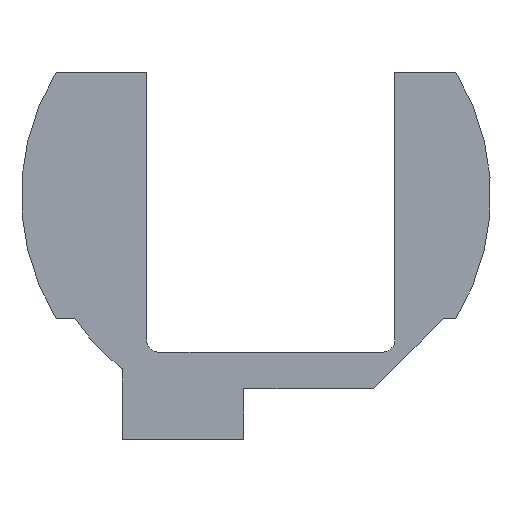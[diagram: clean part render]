
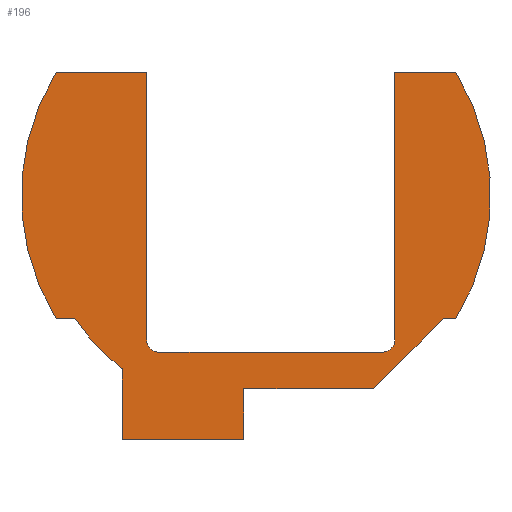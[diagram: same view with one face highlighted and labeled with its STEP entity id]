
A CAD part, front view. The second image highlights one B-rep face of the part: STEP entity #196.
In plain terms, the highlighted planar face has unit normal (0, -1, 0).
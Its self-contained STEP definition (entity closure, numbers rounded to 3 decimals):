
#13 = CARTESIAN_POINT ( 'NONE',  ( 11.962, -12.733, -11.962 ) ) ;
#18 = CARTESIAN_POINT ( 'NONE',  ( -11.383, -12.733, -13.024 ) ) ;
#26 = DIRECTION ( 'NONE',  ( -1., 0., 0. ) ) ;
#36 = CARTESIAN_POINT ( 'NONE',  ( -16.828, -12.733, -8.885 ) ) ;
#38 = VECTOR ( 'NONE', #324, 1000. ) ;
#43 = CARTESIAN_POINT ( 'NONE',  ( 16.061, -12.733, 11.356 ) ) ;
#52 = ORIENTED_EDGE ( 'NONE', *, *, #280, .F. ) ;
#55 = CARTESIAN_POINT ( 'NONE',  ( 11.03, -12.733, -10.644 ) ) ;
#61 = CARTESIAN_POINT ( 'NONE',  ( -11.383, -12.733, 0. ) ) ;
#74 = VECTOR ( 'NONE', #233, 1000. ) ;
#90 = ORIENTED_EDGE ( 'NONE', *, *, #736, .F. ) ;
#107 = EDGE_CURVE ( 'NONE', #850, #894, #139, .T. ) ;
#119 = LINE ( 'NONE', #922, #74 ) ;
#122 = LINE ( 'NONE', #202, #591 ) ;
#126 = CARTESIAN_POINT ( 'NONE',  ( -0.383, -12.733, 1.235 ) ) ;
#127 = EDGE_CURVE ( 'NONE', #232, #320, #870, .T. ) ;
#139 = LINE ( 'NONE', #426, #436 ) ;
#145 = CARTESIAN_POINT ( 'NONE',  ( 0., -12.733, 11.356 ) ) ;
#152 = ORIENTED_EDGE ( 'NONE', *, *, #578, .F. ) ;
#161 = CIRCLE ( 'NONE', #834, 1. ) ;
#172 = LINE ( 'NONE', #329, #386 ) ;
#181 = LINE ( 'NONE', #901, #530 ) ;
#196 = ADVANCED_FACE ( 'NONE', ( #510 ), #804, .F. ) ;
#197 = CIRCLE ( 'NONE', #502, 1. ) ;
#202 = CARTESIAN_POINT ( 'NONE',  ( -1.383, -12.733, 0. ) ) ;
#205 = ORIENTED_EDGE ( 'NONE', *, *, #537, .T. ) ;
#219 = LINE ( 'NONE', #145, #254 ) ;
#232 = VERTEX_POINT ( 'NONE', #810 ) ;
#233 = DIRECTION ( 'NONE',  ( -1., 0., 0. ) ) ;
#245 = VERTEX_POINT ( 'NONE', #526 ) ;
#248 = DIRECTION ( 'NONE',  ( 0., 0., 1. ) ) ;
#252 = CARTESIAN_POINT ( 'NONE',  ( -9.37, -12.733, -10.644 ) ) ;
#254 = VECTOR ( 'NONE', #293, 1000. ) ;
#259 = CARTESIAN_POINT ( 'NONE',  ( -11.383, -12.733, -18.825 ) ) ;
#269 = ORIENTED_EDGE ( 'NONE', *, *, #707, .F. ) ;
#271 = CIRCLE ( 'NONE', #805, 19.309 ) ;
#280 = EDGE_CURVE ( 'NONE', #900, #462, #172, .T. ) ;
#282 = LINE ( 'NONE', #924, #406 ) ;
#285 = VERTEX_POINT ( 'NONE', #36 ) ;
#292 = CARTESIAN_POINT ( 'NONE',  ( -8.37, -12.733, -10.644 ) ) ;
#293 = DIRECTION ( 'NONE',  ( 1., 0., 0. ) ) ;
#302 = CARTESIAN_POINT ( 'NONE',  ( 11.03, -12.733, 11.356 ) ) ;
#304 = CIRCLE ( 'NONE', #391, 18.009 ) ;
#311 = DIRECTION ( 'NONE',  ( 0., 0., 1. ) ) ;
#312 = ORIENTED_EDGE ( 'NONE', *, *, #107, .F. ) ;
#317 = VERTEX_POINT ( 'NONE', #259 ) ;
#318 = DIRECTION ( 'NONE',  ( -0.707, 0., -0.707 ) ) ;
#320 = VERTEX_POINT ( 'NONE', #252 ) ;
#324 = DIRECTION ( 'NONE',  ( -1., 0., 0. ) ) ;
#326 = DIRECTION ( 'NONE',  ( 0., -1., 0. ) ) ;
#329 = CARTESIAN_POINT ( 'NONE',  ( 0., -12.733, -14.644 ) ) ;
#340 = LINE ( 'NONE', #630, #899 ) ;
#346 = VECTOR ( 'NONE', #730, 1000. ) ;
#356 = DIRECTION ( 'NONE',  ( 1., 0., 0. ) ) ;
#364 = EDGE_CURVE ( 'NONE', #232, #952, #390, .T. ) ;
#368 = DIRECTION ( 'NONE',  ( 0., 0., 1. ) ) ;
#374 = EDGE_CURVE ( 'NONE', #415, #894, #161, .T. ) ;
#386 = VECTOR ( 'NONE', #26, 1000. ) ;
#390 = LINE ( 'NONE', #611, #38 ) ;
#391 = AXIS2_PLACEMENT_3D ( 'NONE', #670, #326, #768 ) ;
#392 = ORIENTED_EDGE ( 'NONE', *, *, #923, .F. ) ;
#393 = ORIENTED_EDGE ( 'NONE', *, *, #435, .F. ) ;
#404 = CARTESIAN_POINT ( 'NONE',  ( -0.383, -12.733, 1.235 ) ) ;
#406 = VECTOR ( 'NONE', #858, 1000. ) ;
#415 = VERTEX_POINT ( 'NONE', #55 ) ;
#426 = CARTESIAN_POINT ( 'NONE',  ( 0., -12.733, -11.644 ) ) ;
#431 = VERTEX_POINT ( 'NONE', #626 ) ;
#435 = EDGE_CURVE ( 'NONE', #317, #538, #859, .T. ) ;
#436 = VECTOR ( 'NONE', #356, 1000. ) ;
#462 = VERTEX_POINT ( 'NONE', #949 ) ;
#468 = CARTESIAN_POINT ( 'NONE',  ( -16.828, -12.733, 11.356 ) ) ;
#476 = DIRECTION ( 'NONE',  ( 0., 1., 0. ) ) ;
#477 = ORIENTED_EDGE ( 'NONE', *, *, #774, .F. ) ;
#496 = ORIENTED_EDGE ( 'NONE', *, *, #716, .F. ) ;
#502 = AXIS2_PLACEMENT_3D ( 'NONE', #292, #583, #722 ) ;
#506 = EDGE_CURVE ( 'NONE', #836, #758, #219, .T. ) ;
#510 = FACE_OUTER_BOUND ( 'NONE', #644, .T. ) ;
#514 = CARTESIAN_POINT ( 'NONE',  ( 0., -12.733, 0. ) ) ;
#519 = DIRECTION ( 'NONE',  ( 0., 1., 0. ) ) ;
#521 = CARTESIAN_POINT ( 'NONE',  ( -8.37, -12.733, -11.644 ) ) ;
#526 = CARTESIAN_POINT ( 'NONE',  ( 16.056, -12.733, -8.894 ) ) ;
#530 = VECTOR ( 'NONE', #531, 1000. ) ;
#531 = DIRECTION ( 'NONE',  ( 1., 0., 0. ) ) ;
#537 = EDGE_CURVE ( 'NONE', #285, #431, #181, .T. ) ;
#538 = VERTEX_POINT ( 'NONE', #18 ) ;
#549 = LINE ( 'NONE', #13, #638 ) ;
#553 = CARTESIAN_POINT ( 'NONE',  ( 15.03, -12.733, -8.894 ) ) ;
#557 = DIRECTION ( 'NONE',  ( 0., 0., 1. ) ) ;
#572 = DIRECTION ( 'NONE',  ( 0., 0., -1. ) ) ;
#576 = VECTOR ( 'NONE', #847, 1000. ) ;
#578 = EDGE_CURVE ( 'NONE', #710, #900, #549, .T. ) ;
#583 = DIRECTION ( 'NONE',  ( 0., 1., 0. ) ) ;
#591 = VECTOR ( 'NONE', #572, 1000. ) ;
#611 = CARTESIAN_POINT ( 'NONE',  ( 0., -12.733, 11.356 ) ) ;
#624 = ORIENTED_EDGE ( 'NONE', *, *, #127, .F. ) ;
#626 = CARTESIAN_POINT ( 'NONE',  ( -15.28, -12.733, -8.885 ) ) ;
#630 = CARTESIAN_POINT ( 'NONE',  ( 11.03, -12.733, 0. ) ) ;
#633 = VERTEX_POINT ( 'NONE', #760 ) ;
#638 = VECTOR ( 'NONE', #318, 1000. ) ;
#644 = EDGE_LOOP ( 'NONE', ( #496, #52, #152, #269, #700, #817, #477, #885, #312, #738, #624, #910, #90, #205, #687, #393, #392 ) ) ;
#664 = AXIS2_PLACEMENT_3D ( 'NONE', #514, #519, #311 ) ;
#670 = CARTESIAN_POINT ( 'NONE',  ( -0.383, -12.733, 1.235 ) ) ;
#681 = CARTESIAN_POINT ( 'NONE',  ( 10.03, -12.733, -10.644 ) ) ;
#687 = ORIENTED_EDGE ( 'NONE', *, *, #930, .T. ) ;
#697 = DIRECTION ( 'NONE',  ( 0., 1., 0. ) ) ;
#700 = ORIENTED_EDGE ( 'NONE', *, *, #778, .F. ) ;
#707 = EDGE_CURVE ( 'NONE', #245, #710, #282, .T. ) ;
#710 = VERTEX_POINT ( 'NONE', #553 ) ;
#716 = EDGE_CURVE ( 'NONE', #462, #633, #122, .T. ) ;
#722 = DIRECTION ( 'NONE',  ( 0., 0., 1. ) ) ;
#730 = DIRECTION ( 'NONE',  ( 0., 0., -1. ) ) ;
#736 = EDGE_CURVE ( 'NONE', #285, #952, #271, .T. ) ;
#738 = ORIENTED_EDGE ( 'NONE', *, *, #890, .T. ) ;
#758 = VERTEX_POINT ( 'NONE', #43 ) ;
#760 = CARTESIAN_POINT ( 'NONE',  ( -1.383, -12.733, -18.825 ) ) ;
#768 = DIRECTION ( 'NONE',  ( 0., 0., 1. ) ) ;
#774 = EDGE_CURVE ( 'NONE', #415, #836, #340, .T. ) ;
#778 = EDGE_CURVE ( 'NONE', #758, #245, #790, .T. ) ;
#781 = DIRECTION ( 'NONE',  ( 0., 0., 1. ) ) ;
#790 = CIRCLE ( 'NONE', #932, 19.309 ) ;
#804 = PLANE ( 'NONE',  #664 ) ;
#805 = AXIS2_PLACEMENT_3D ( 'NONE', #404, #697, #781 ) ;
#810 = CARTESIAN_POINT ( 'NONE',  ( -9.37, -12.733, 11.356 ) ) ;
#817 = ORIENTED_EDGE ( 'NONE', *, *, #506, .F. ) ;
#819 = CARTESIAN_POINT ( 'NONE',  ( -9.37, -12.733, 0. ) ) ;
#834 = AXIS2_PLACEMENT_3D ( 'NONE', #681, #476, #248 ) ;
#836 = VERTEX_POINT ( 'NONE', #302 ) ;
#847 = DIRECTION ( 'NONE',  ( 0., 0., 1. ) ) ;
#850 = VERTEX_POINT ( 'NONE', #521 ) ;
#858 = DIRECTION ( 'NONE',  ( -1., 0., 0. ) ) ;
#859 = LINE ( 'NONE', #61, #576 ) ;
#870 = LINE ( 'NONE', #819, #346 ) ;
#872 = CARTESIAN_POINT ( 'NONE',  ( 9.28, -12.733, -14.644 ) ) ;
#877 = CARTESIAN_POINT ( 'NONE',  ( 10.03, -12.733, -11.644 ) ) ;
#885 = ORIENTED_EDGE ( 'NONE', *, *, #374, .T. ) ;
#890 = EDGE_CURVE ( 'NONE', #850, #320, #197, .T. ) ;
#894 = VERTEX_POINT ( 'NONE', #877 ) ;
#899 = VECTOR ( 'NONE', #557, 1000. ) ;
#900 = VERTEX_POINT ( 'NONE', #872 ) ;
#901 = CARTESIAN_POINT ( 'NONE',  ( 0., -12.733, -8.885 ) ) ;
#910 = ORIENTED_EDGE ( 'NONE', *, *, #364, .T. ) ;
#922 = CARTESIAN_POINT ( 'NONE',  ( 0., -12.733, -18.825 ) ) ;
#923 = EDGE_CURVE ( 'NONE', #633, #317, #119, .T. ) ;
#924 = CARTESIAN_POINT ( 'NONE',  ( 0., -12.733, -8.894 ) ) ;
#930 = EDGE_CURVE ( 'NONE', #431, #538, #304, .T. ) ;
#932 = AXIS2_PLACEMENT_3D ( 'NONE', #126, #946, #368 ) ;
#946 = DIRECTION ( 'NONE',  ( 0., 1., 0. ) ) ;
#949 = CARTESIAN_POINT ( 'NONE',  ( -1.383, -12.733, -14.644 ) ) ;
#952 = VERTEX_POINT ( 'NONE', #468 ) ;
